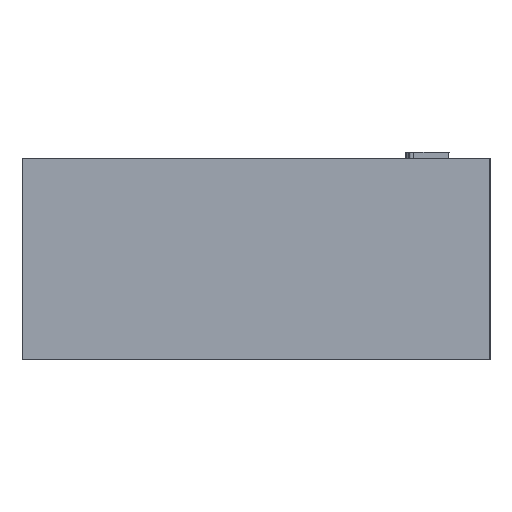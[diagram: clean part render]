
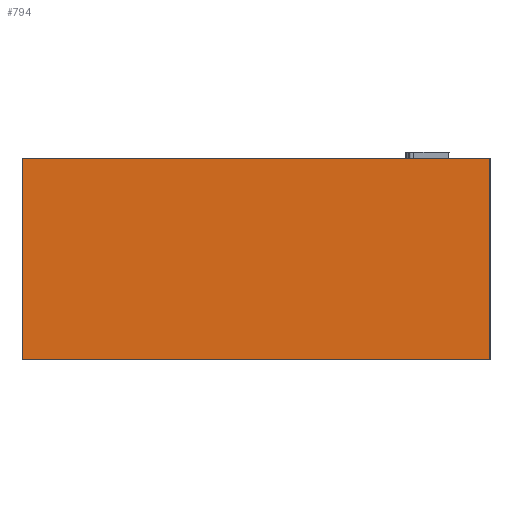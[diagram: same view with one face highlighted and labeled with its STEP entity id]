
A CAD part, left-side view. The second image highlights one B-rep face of the part: STEP entity #794.
In plain terms, the highlighted planar face has unit normal (-1, 0, 0).
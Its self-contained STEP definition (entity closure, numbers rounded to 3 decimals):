
#600=FACE_OUTER_BOUND('',#1921,.T.);
#794=ADVANCED_FACE('',(#600),#984,.T.);
#984=PLANE('',#3945);
#1183=LINE('',#5373,#1527);
#1184=LINE('',#5376,#1528);
#1185=LINE('',#5378,#1529);
#1186=LINE('',#5380,#1530);
#1527=VECTOR('',#4198,1.);
#1528=VECTOR('',#4199,1.);
#1529=VECTOR('',#4200,1.);
#1530=VECTOR('',#4201,1.);
#1921=EDGE_LOOP('',(#2217,#2218,#2219,#2220));
#2217=ORIENTED_EDGE('',*,*,#3438,.F.);
#2218=ORIENTED_EDGE('',*,*,#3439,.F.);
#2219=ORIENTED_EDGE('',*,*,#3440,.T.);
#2220=ORIENTED_EDGE('',*,*,#3441,.T.);
#3133=VERTEX_POINT('',#5374);
#3134=VERTEX_POINT('',#5375);
#3135=VERTEX_POINT('',#5377);
#3136=VERTEX_POINT('',#5379);
#3438=EDGE_CURVE('',#3133,#3134,#1183,.T.);
#3439=EDGE_CURVE('',#3135,#3133,#1184,.T.);
#3440=EDGE_CURVE('',#3135,#3136,#1185,.T.);
#3441=EDGE_CURVE('',#3136,#3134,#1186,.T.);
#3945=AXIS2_PLACEMENT_3D('',#5381,#4202,#4203);
#4198=DIRECTION('',(0.,-1.,0.));
#4199=DIRECTION('',(0.,0.,1.));
#4200=DIRECTION('',(0.,-1.,0.));
#4201=DIRECTION('',(0.,0.,1.));
#4202=DIRECTION('',(-1.,0.,0.));
#4203=DIRECTION('',(0.,0.,1.));
#5373=CARTESIAN_POINT('',(-49.15,19.75,0.));
#5374=CARTESIAN_POINT('',(-49.15,19.75,0.));
#5375=CARTESIAN_POINT('',(-49.15,-19.75,0.));
#5376=CARTESIAN_POINT('',(-49.15,19.75,-17.));
#5377=CARTESIAN_POINT('',(-49.15,19.75,-17.));
#5378=CARTESIAN_POINT('',(-49.15,19.75,-17.));
#5379=CARTESIAN_POINT('',(-49.15,-19.75,-17.));
#5380=CARTESIAN_POINT('',(-49.15,-19.75,-17.));
#5381=CARTESIAN_POINT('',(-49.15,19.75,-17.));
